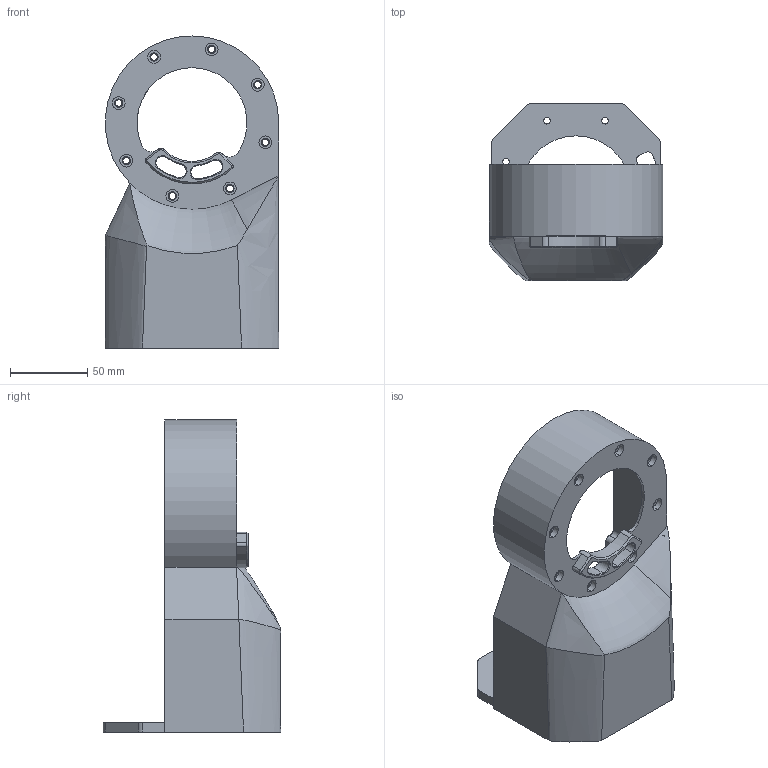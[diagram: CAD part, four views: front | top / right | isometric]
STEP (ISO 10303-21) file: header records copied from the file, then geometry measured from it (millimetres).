
FILE_DESCRIPTION((''),'2;1');
FILE_NAME('KD-D-201L_UPPERTHIGH_DRIVE_1','2025-07-12T15:35:22',('Administrator'),(''),'CREO PARAMETRIC BY PTC INC, 2022073','CREO PARAMETRIC BY PTC INC, 2022073','');
FILE_SCHEMA(('CONFIG_CONTROL_DESIGN'));
Length unit declared in the file: millimetre
Products named in the file (1): KD-D-201L_UPPERTHIGH_DRIVE_1
Bounding box: 112 x 114.5 x 201.5 mm (x, y, z)
Volume: 159559.3 mm3; surface area: 106148.7 mm2
Topology: 1 solids, 1 shells, 342 faces, 978 edges, 648 vertices
Faces by surface type: cylinder 156, plane 69, cone 58, bspline 28, torus 27, revolution 2, extrusion 2
Entity records: 13752 total; most frequent: CARTESIAN_POINT 4482, DIRECTION 2038, ORIENTED_EDGE 1936, EDGE_CURVE 968, AXIS2_PLACEMENT_3D 844, VERTEX_POINT 648, CIRCLE 534, EDGE_LOOP 400
